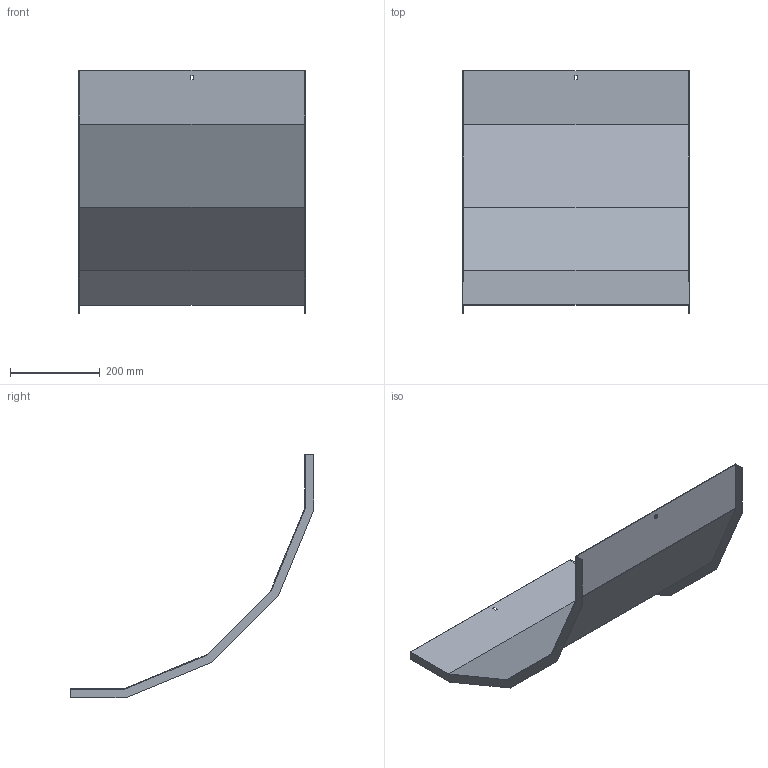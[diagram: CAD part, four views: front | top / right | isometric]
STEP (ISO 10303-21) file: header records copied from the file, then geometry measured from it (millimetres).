
FILE_DESCRIPTION (( 'STEP AP214' ), '1' );
FILE_NAME ('30N5R500_H150.step', '2025-02-21T14:29:41', ( '' ), ( '' ), 'SwSTEP 2.0', 'SolidWorks 2023', '' );
FILE_SCHEMA (( 'AUTOMOTIVE_DESIGN' ));
Length unit declared in the file: millimetre
Products named in the file (1): 30N5R500_H150
Bounding box: 503 x 540.72 x 540.72 mm (x, y, z)
Volume: 679644.4 mm3; surface area: 910508.4 mm2
Topology: 1 solids, 1 shells, 34 faces, 96 edges, 64 vertices
Faces by surface type: plane 34
Entity records: 1111 total; most frequent: CARTESIAN_POINT 195, ORIENTED_EDGE 192, DIRECTION 166, VECTOR 96, LINE 96, EDGE_CURVE 96, VERTEX_POINT 64, EDGE_LOOP 38
